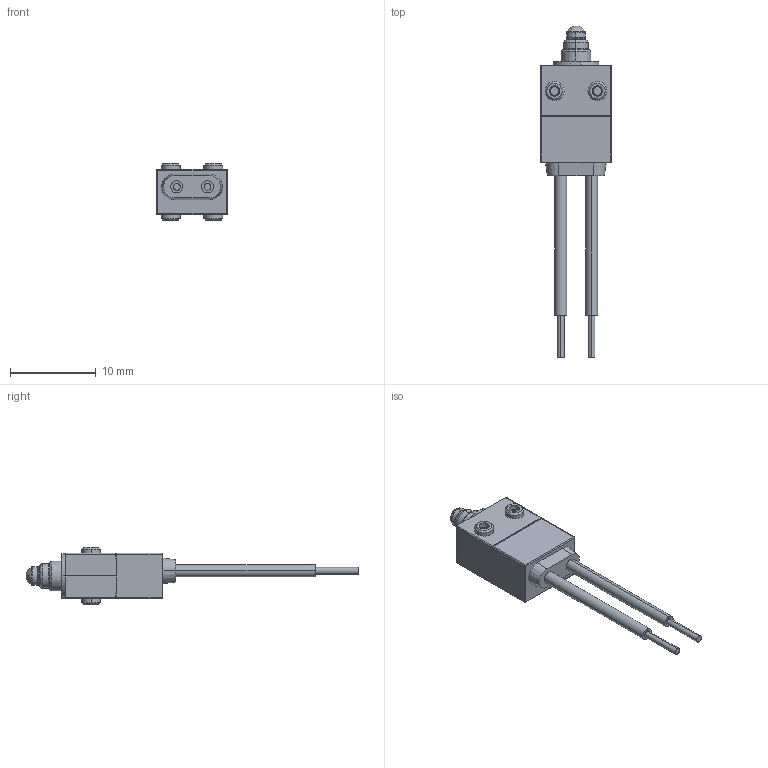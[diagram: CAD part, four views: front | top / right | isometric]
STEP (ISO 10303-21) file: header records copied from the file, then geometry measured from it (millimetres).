
FILE_DESCRIPTION (( 'STEP AP214' ), '1' );
FILE_NAME ('SPVQ850201.STEP', '2018-06-20T08:25:57', ( 'user' ), ( '' ), 'SwSTEP 2.0', 'SolidWorks 2017', '' );
FILE_SCHEMA (( 'AUTOMOTIVE_DESIGN' ));
Length unit declared in the file: millimetre
Products named in the file (1): SPVQ850201
Bounding box: 8.3 x 38.79 x 6.7 mm (x, y, z)
Volume: 620.6 mm3; surface area: 657.5 mm2
Topology: 1 solids, 1 shells, 245 faces, 599 edges, 380 vertices
Faces by surface type: plane 136, cylinder 52, bspline 34, cone 23
Entity records: 9302 total; most frequent: CARTESIAN_POINT 3340, ORIENTED_EDGE 1190, DIRECTION 1018, EDGE_CURVE 595, LINE 384, VECTOR 384, VERTEX_POINT 380, AXIS2_PLACEMENT_3D 317
